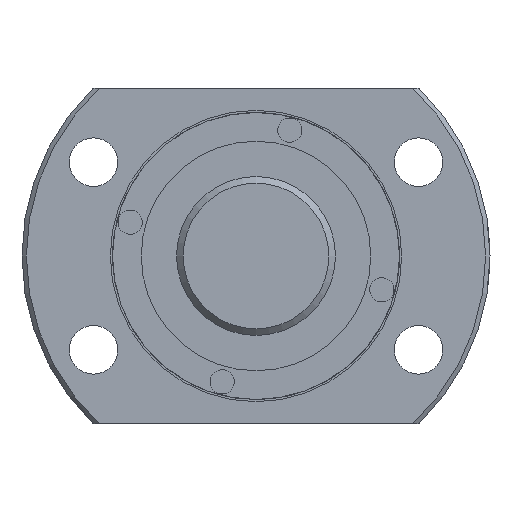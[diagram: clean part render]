
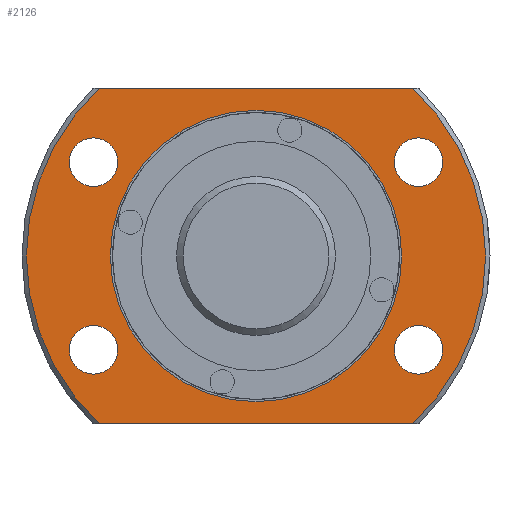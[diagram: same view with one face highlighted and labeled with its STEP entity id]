
A CAD part, left-side view. The second image highlights one B-rep face of the part: STEP entity #2126.
In plain terms, the highlighted planar face has unit normal (-1, 0, 0).
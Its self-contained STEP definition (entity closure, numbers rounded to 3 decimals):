
#81=LINE('',#3591,#201);
#82=LINE('',#3592,#202);
#201=VECTOR('',#2727,1000.);
#202=VECTOR('',#2728,1000.);
#481=ORIENTED_EDGE('',*,*,#1020,.T.);
#482=ORIENTED_EDGE('',*,*,#1021,.F.);
#483=ORIENTED_EDGE('',*,*,#999,.F.);
#484=ORIENTED_EDGE('',*,*,#1022,.F.);
#485=ORIENTED_EDGE('',*,*,#1018,.F.);
#486=ORIENTED_EDGE('',*,*,#1023,.T.);
#487=ORIENTED_EDGE('',*,*,#1024,.T.);
#488=ORIENTED_EDGE('',*,*,#1025,.T.);
#489=ORIENTED_EDGE('',*,*,#1026,.T.);
#999=EDGE_CURVE('',#1272,#1271,#1432,.T.);
#1018=EDGE_CURVE('',#1287,#1288,#1446,.T.);
#1020=EDGE_CURVE('',#1289,#1289,#1447,.T.);
#1021=EDGE_CURVE('',#1271,#1287,#81,.T.);
#1022=EDGE_CURVE('',#1288,#1272,#82,.T.);
#1023=EDGE_CURVE('',#1290,#1290,#1448,.T.);
#1024=EDGE_CURVE('',#1291,#1291,#1449,.T.);
#1025=EDGE_CURVE('',#1292,#1292,#1450,.T.);
#1026=EDGE_CURVE('',#1293,#1293,#1451,.T.);
#1271=VERTEX_POINT('',#3524);
#1272=VERTEX_POINT('',#3529);
#1287=VERTEX_POINT('',#3581);
#1288=VERTEX_POINT('',#3583);
#1289=VERTEX_POINT('',#3590);
#1290=VERTEX_POINT('',#3594);
#1291=VERTEX_POINT('',#3596);
#1292=VERTEX_POINT('',#3598);
#1293=VERTEX_POINT('',#3600);
#1432=CIRCLE('',#2324,52.);
#1446=CIRCLE('',#2347,52.);
#1447=CIRCLE('',#2349,33.);
#1448=CIRCLE('',#2350,5.5);
#1449=CIRCLE('',#2351,5.5);
#1450=CIRCLE('',#2352,5.5);
#1451=CIRCLE('',#2353,5.5);
#1579=EDGE_LOOP('',(#481));
#1580=EDGE_LOOP('',(#482,#483,#484,#485));
#1581=EDGE_LOOP('',(#486));
#1582=EDGE_LOOP('',(#487));
#1583=EDGE_LOOP('',(#488));
#1584=EDGE_LOOP('',(#489));
#1813=FACE_BOUND('',#1579,.T.);
#1814=FACE_BOUND('',#1580,.T.);
#1815=FACE_BOUND('',#1581,.T.);
#1816=FACE_BOUND('',#1582,.T.);
#1817=FACE_BOUND('',#1583,.T.);
#1818=FACE_BOUND('',#1584,.T.);
#2013=PLANE('',#2348);
#2126=ADVANCED_FACE('',(#1813,#1814,#1815,#1816,#1817,#1818),#2013,.T.);
#2324=AXIS2_PLACEMENT_3D('',#3530,#2673,#2674);
#2347=AXIS2_PLACEMENT_3D('',#3582,#2721,#2722);
#2348=AXIS2_PLACEMENT_3D('',#3588,#2723,#2724);
#2349=AXIS2_PLACEMENT_3D('',#3589,#2725,#2726);
#2350=AXIS2_PLACEMENT_3D('',#3593,#2729,#2730);
#2351=AXIS2_PLACEMENT_3D('',#3595,#2731,#2732);
#2352=AXIS2_PLACEMENT_3D('',#3597,#2733,#2734);
#2353=AXIS2_PLACEMENT_3D('',#3599,#2735,#2736);
#2673=DIRECTION('',(1.,0.,0.));
#2674=DIRECTION('',(0.,0.,-1.));
#2721=DIRECTION('',(1.,0.,0.));
#2722=DIRECTION('',(0.,0.,-1.));
#2723=DIRECTION('',(-1.,0.,0.));
#2724=DIRECTION('',(0.,0.,1.));
#2725=DIRECTION('',(1.,0.,0.));
#2726=DIRECTION('',(0.,0.,-1.));
#2727=DIRECTION('',(0.,1.,0.));
#2728=DIRECTION('',(0.,-1.,0.));
#2729=DIRECTION('',(1.,0.,0.));
#2730=DIRECTION('',(0.,0.,-1.));
#2731=DIRECTION('',(1.,0.,0.));
#2732=DIRECTION('',(0.,0.,-1.));
#2733=DIRECTION('',(1.,0.,0.));
#2734=DIRECTION('',(0.,0.,-1.));
#2735=DIRECTION('',(1.,0.,0.));
#2736=DIRECTION('',(0.,0.,-1.));
#3524=CARTESIAN_POINT('',(10.,-35.496,-38.));
#3529=CARTESIAN_POINT('',(10.,-35.496,38.));
#3530=CARTESIAN_POINT('',(10.,0.,0.));
#3581=CARTESIAN_POINT('',(10.,35.496,-38.));
#3582=CARTESIAN_POINT('',(10.,0.,0.));
#3583=CARTESIAN_POINT('',(10.,35.496,38.));
#3588=CARTESIAN_POINT('',(10.,52.,0.));
#3589=CARTESIAN_POINT('',(10.,0.,0.));
#3590=CARTESIAN_POINT('',(10.,0.,-33.));
#3591=CARTESIAN_POINT('',(10.,52.,-38.));
#3592=CARTESIAN_POINT('',(10.,52.,38.));
#3593=CARTESIAN_POINT('',(10.,36.806,-21.25));
#3594=CARTESIAN_POINT('',(10.,36.806,-26.75));
#3595=CARTESIAN_POINT('',(10.,-36.806,21.25));
#3596=CARTESIAN_POINT('',(10.,-36.806,15.75));
#3597=CARTESIAN_POINT('',(10.,-36.806,-21.25));
#3598=CARTESIAN_POINT('',(10.,-36.806,-26.75));
#3599=CARTESIAN_POINT('',(10.,36.806,21.25));
#3600=CARTESIAN_POINT('',(10.,36.806,15.75));
